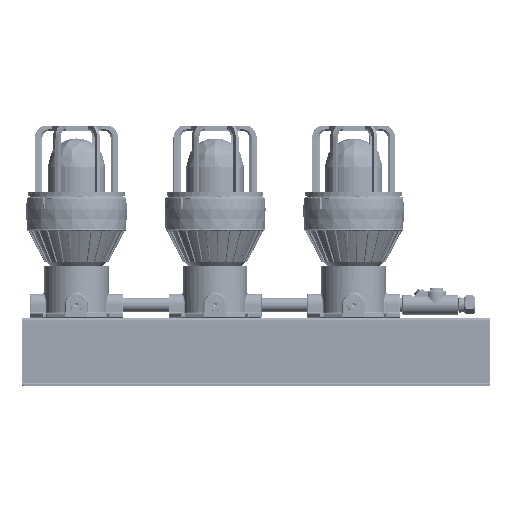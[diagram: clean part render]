
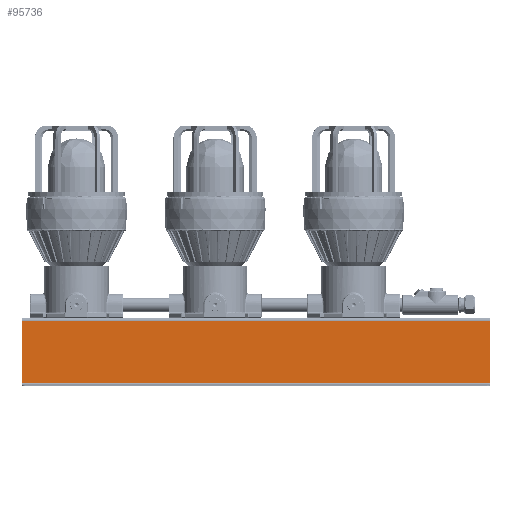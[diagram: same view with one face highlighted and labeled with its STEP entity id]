
A CAD part, left-side view. The second image highlights one B-rep face of the part: STEP entity #95736.
In plain terms, the highlighted planar face has unit normal (-1, 0, 0).
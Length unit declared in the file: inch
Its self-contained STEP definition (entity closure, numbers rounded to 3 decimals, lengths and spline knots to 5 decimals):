
#1462 = VECTOR ( 'NONE', #26538, 39.37008 ) ;
#3561 = LINE ( 'NONE', #37400, #80994 ) ;
#4375 = EDGE_CURVE ( 'NONE', #46472, #7134, #99555, .T. ) ;
#5701 = EDGE_CURVE ( 'NONE', #7134, #51079, #3561, .T. ) ;
#7134 = VERTEX_POINT ( 'NONE', #61619 ) ;
#8107 = ORIENTED_EDGE ( 'NONE', *, *, #4375, .F. ) ;
#12648 = LINE ( 'NONE', #68552, #1462 ) ;
#15686 = CARTESIAN_POINT ( 'NONE',  ( -5.75, 17.5, -4.875 ) ) ;
#16271 = LINE ( 'NONE', #84015, #112600 ) ;
#17149 = EDGE_CURVE ( 'NONE', #114082, #51079, #16271, .T. ) ;
#19221 = DIRECTION ( 'NONE',  ( 0., -1., 0. ) ) ;
#24795 = PLANE ( 'NONE',  #133099 ) ;
#26538 = DIRECTION ( 'NONE',  ( 0., 0., -1. ) ) ;
#27042 = DIRECTION ( 'NONE',  ( 0., 0., -1. ) ) ;
#31461 = VECTOR ( 'NONE', #19221, 39.37008 ) ;
#37400 = CARTESIAN_POINT ( 'NONE',  ( -5.75, -17.5, 0. ) ) ;
#46472 = VERTEX_POINT ( 'NONE', #57381 ) ;
#51079 = VERTEX_POINT ( 'NONE', #71032 ) ;
#53442 = ORIENTED_EDGE ( 'NONE', *, *, #5701, .F. ) ;
#57381 = CARTESIAN_POINT ( 'NONE',  ( -5.75, 17.5, -0.25 ) ) ;
#58903 = ORIENTED_EDGE ( 'NONE', *, *, #62998, .T. ) ;
#61619 = CARTESIAN_POINT ( 'NONE',  ( -5.75, -17.5, -0.25 ) ) ;
#62998 = EDGE_CURVE ( 'NONE', #46472, #114082, #12648, .T. ) ;
#68552 = CARTESIAN_POINT ( 'NONE',  ( -5.75, 17.5, 0. ) ) ;
#71032 = CARTESIAN_POINT ( 'NONE',  ( -5.75, -17.5, -4.875 ) ) ;
#80511 = DIRECTION ( 'NONE',  ( 0., -1., 0. ) ) ;
#80994 = VECTOR ( 'NONE', #27042, 39.37008 ) ;
#82924 = DIRECTION ( 'NONE',  ( -1., 0., 0. ) ) ;
#84015 = CARTESIAN_POINT ( 'NONE',  ( -5.75, 17.5, -4.875 ) ) ;
#93169 = EDGE_LOOP ( 'NONE', ( #53442, #8107, #58903, #111678 ) ) ;
#93304 = FACE_OUTER_BOUND ( 'NONE', #93169, .T. ) ;
#94020 = DIRECTION ( 'NONE',  ( 0., 0., 1. ) ) ;
#95736 = ADVANCED_FACE ( 'NONE', ( #93304 ), #24795, .T. ) ;
#99555 = LINE ( 'NONE', #109136, #31461 ) ;
#109136 = CARTESIAN_POINT ( 'NONE',  ( -5.75, 17.5, -0.25 ) ) ;
#111678 = ORIENTED_EDGE ( 'NONE', *, *, #17149, .T. ) ;
#112600 = VECTOR ( 'NONE', #80511, 39.37008 ) ;
#114082 = VERTEX_POINT ( 'NONE', #15686 ) ;
#133099 = AXIS2_PLACEMENT_3D ( 'NONE', #136832, #82924, #94020 ) ;
#136832 = CARTESIAN_POINT ( 'NONE',  ( -5.75, 17.5, 0. ) ) ;
